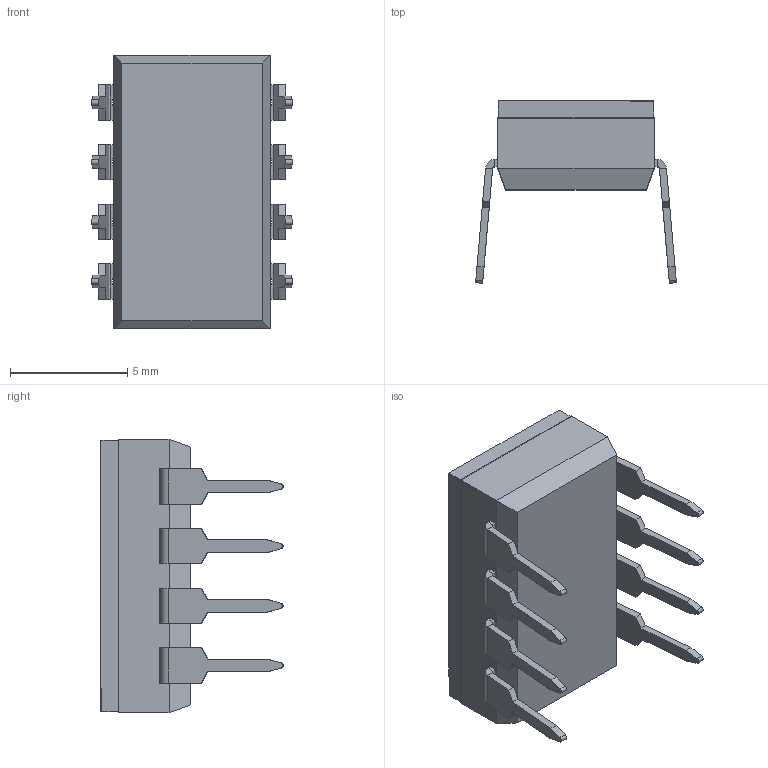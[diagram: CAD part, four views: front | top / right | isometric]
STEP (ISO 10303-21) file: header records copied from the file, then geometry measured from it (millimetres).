
FILE_DESCRIPTION (( 'STEP AP203' ), '1' );
FILE_NAME ('209-4LPS.STEP', '2019-05-24T07:07:05', ( '' ), ( '' ), 'SwSTEP 2.0', 'SolidWorks 2019', '' );
FILE_SCHEMA (( 'CONFIG_CONTROL_DESIGN' ));
Length unit declared in the file: millimetre
Products named in the file (5): 209-02-204 mold housing for 209; 209-40-204 for 209; 219-56-001; 209-83-001-06-01 lead frame; 209-4LPS
Assembly tree (10 placements, depth 2):
  209-4LPS
    209-02-204 mold housing for 209
    209-40-204 for 209
    219-56-001  x4
    209-83-001-06-01 lead frame  x4
Bounding box: 8.55 x 7.76 x 11.64 mm (x, y, z)
Volume: 252.4 mm3; surface area: 837.3 mm2
Topology: 14 solids, 14 shells, 669 faces, 1724 edges, 1100 vertices
Faces by surface type: plane 402, bspline 163, cylinder 88, sphere 16
Entity records: 21455 total; most frequent: CARTESIAN_POINT 11752, ORIENTED_EDGE 2144, DIRECTION 1306, EDGE_CURVE 1072, VERTEX_POINT 704, LINE 702, VECTOR 702, EDGE_LOOP 450
